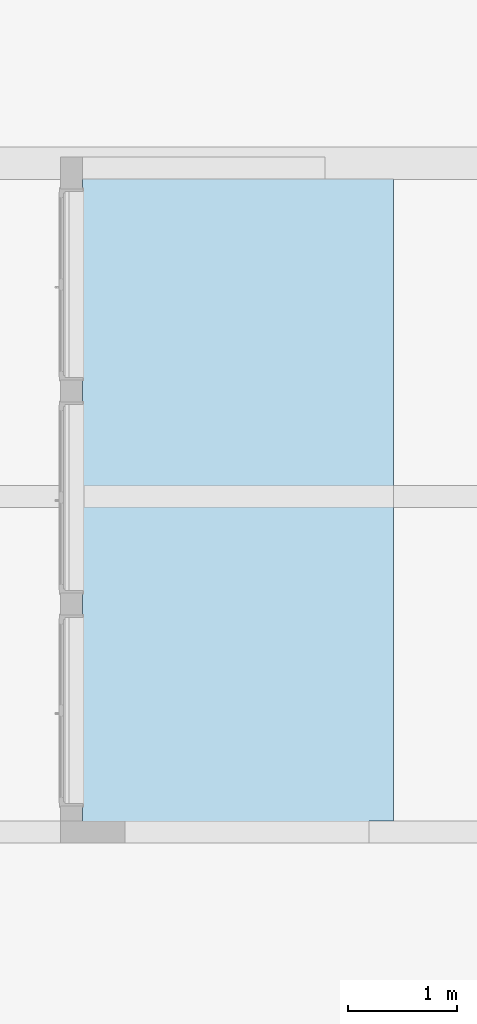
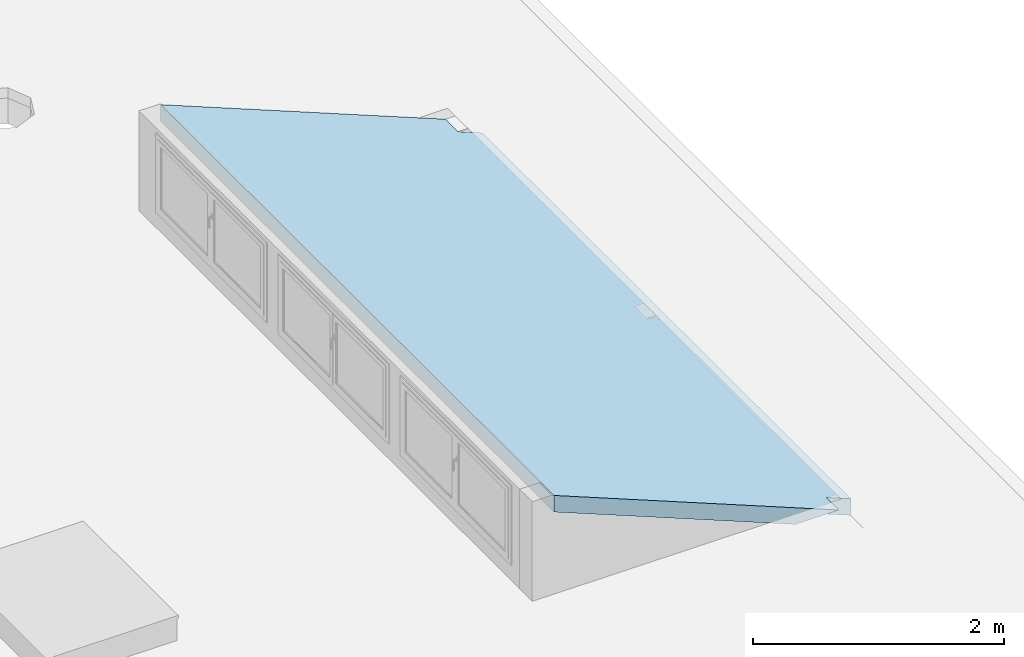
# One storey, part 2 of 4: 1 slab.
"""IFC2X3 building model written with IfcOpenShell, lengths in metres."""

import ifcopenshell
import ifcopenshell.guid

model = None  # the IFC model being written
_history = None  # IfcOwnerHistory: only IFC2X3 demands one
_inside = {}  # id of a spatial element -> (the spatial element, [elements in it])
_under = {}  # id of a project, library or spatial element -> (it, [spatial elements below it])
_declared = {}  # id of a project -> (the project, [libraries it declares])
_typed = {}  # id of a type object -> (the type object, [elements of that type])
_made_of = {}  # id of a material, layer set ... -> (it, [elements and type objects made of it])


def new_model(schema):
    """Start an empty IFC model of exactly this schema.

    Asked for "IFC4X3", IfcOpenShell would pick the latest addendum, in which some entities
    have other attributes; the version numbers below select the first issue.
    IFC2X3 requires an IfcOwnerHistory on every rooted entity: one is made here for all.
    """
    global model, _history
    if schema == "IFC4X3":
        model = ifcopenshell.file(schema_version=(4, 3, 0, 0))
    else:
        model = ifcopenshell.file(schema=schema)
    _inside.clear()
    _under.clear()
    _declared.clear()
    _typed.clear()
    _made_of.clear()
    _history = None
    if model.schema == "IFC2X3":
        org = make("IfcOrganization", Name="unknown")
        user = make(
            "IfcPersonAndOrganization",
            ThePerson=make("IfcPerson", FamilyName="unknown"),
            TheOrganization=org,
        )
        app = make(
            "IfcApplication",
            ApplicationDeveloper=org,
            Version="unknown",
            ApplicationFullName="unknown",
            ApplicationIdentifier="unknown",
        )
        _history = make(
            "IfcOwnerHistory",
            OwningUser=user,
            OwningApplication=app,
            ChangeAction="ADDED",
            CreationDate=0,
        )
    return model


def make(cls, **values):
    """One entity of the class cls with the attributes given. An attribute that is None is left unset."""
    return model.create_entity(
        cls, **{name: value for name, value in values.items() if value is not None}
    )


def entity(cls, *values):
    """Any entity or typed value of the class cls, its attributes in the order of the schema. None: left unset."""
    e = model.create_entity(cls)
    for i, value in enumerate(values):
        if value is not None:
            e[i] = value
    return e


def rooted(cls, **values):
    """An entity with a GlobalId (a new one), such as an element, a storey or a relation."""
    return make(cls, GlobalId=ifcopenshell.guid.new(), OwnerHistory=_history, **values)


def si_unit(unit_type, name, prefix=None):
    """IfcSIUnit, for example si_unit("LENGTHUNIT", "METRE", prefix="MILLI")."""
    return make("IfcSIUnit", UnitType=unit_type, Prefix=prefix, Name=name)


def converted_unit(unit_type, name, factor, base, dimensions=None, offset=None):
    """IfcConversionBasedUnit, such as the inch: factor (a typed value) times the base unit."""
    return make(
        "IfcConversionBasedUnit"
        if offset is None
        else "IfcConversionBasedUnitWithOffset",
        ConversionOffset=offset,
        Dimensions=None
        if dimensions is None
        else entity("IfcDimensionalExponents", *dimensions),
        UnitType=unit_type,
        Name=name,
        ConversionFactor=make(
            "IfcMeasureWithUnit", ValueComponent=factor, UnitComponent=base
        ),
    )


def derived_unit(unit_type, elements):
    """IfcDerivedUnit: a product of units, each with its exponent."""
    return make(
        "IfcDerivedUnit",
        Elements=[
            make("IfcDerivedUnitElement", Unit=unit, Exponent=power)
            for unit, power in elements
        ],
        UnitType=unit_type,
    )


def assignment(units):
    """IfcUnitAssignment: the units of a project."""
    return None if units is None else make("IfcUnitAssignment", Units=units)


def point(xyz):
    """IfcCartesianPoint."""
    return None if xyz is None else make("IfcCartesianPoint", Coordinates=xyz)


def direction(xyz):
    """IfcDirection."""
    return None if xyz is None else make("IfcDirection", DirectionRatios=xyz)


def frame(location, z_axis=None, x_axis=None):
    """IfcAxis2Placement3D, a coordinate frame: its origin and axes. An axis left out is left unset."""
    return make(
        "IfcAxis2Placement3D",
        Location=point(location),
        Axis=direction(z_axis),
        RefDirection=direction(x_axis),
    )


def origin():
    """The frame at (0, 0, 0) with its axes left unset."""
    return frame((0.0, 0.0, 0.0))


def place(relative_to, where):
    """IfcLocalPlacement: puts the frame where relative to a parent placement (None: the world)."""
    return make(
        "IfcLocalPlacement", PlacementRelTo=relative_to, RelativePlacement=where
    )


def context(
    kind, dimensions, precision=None, world=None, true_north=None, identifier=None
):
    """IfcGeometricRepresentationContext, for example the 3D "Model" context."""
    return make(
        "IfcGeometricRepresentationContext",
        ContextIdentifier=identifier,
        ContextType=kind,
        CoordinateSpaceDimension=dimensions,
        Precision=precision,
        WorldCoordinateSystem=world,
        TrueNorth=true_north,
    )


def subcontext(parent, identifier, kind, view, scale=None):
    """IfcGeometricRepresentationSubContext, for example "Body" below "Model"."""
    return make(
        "IfcGeometricRepresentationSubContext",
        ContextIdentifier=identifier,
        ContextType=kind,
        ParentContext=parent,
        TargetScale=scale,
        TargetView=view,
    )


def project(units=None, contexts=None):
    """IfcProject with its units and contexts."""
    return rooted(
        "IfcProject",
        Name="project",
        RepresentationContexts=contexts,
        UnitsInContext=assignment(units),
    )


def spatial(cls, under=None, at=None, **own):
    """A site, building, storey or space (cls), placed at a placement, below another one or the project."""
    s = rooted(cls, ObjectPlacement=at, **own)
    if under is not None:
        _under.setdefault(under.id(), (under, []))[1].append(s)
    return s


def faces_of(points, faces, orient=None, outer=None):
    """IfcFace entities. A face is a list of loops; a loop is a list of indices into points, from 0.

    orient and outer hold one flag for each loop. By default every Orientation is true, the
    first loop of a face is its IfcFaceOuterBound and the others are IfcFaceBound.
    """
    made = []
    for i, loops in enumerate(faces):
        bounds = []
        for j, loop in enumerate(loops):
            is_outer = j == 0 if outer is None else outer[i][j]
            bounds.append(
                make(
                    "IfcFaceOuterBound" if is_outer else "IfcFaceBound",
                    Bound=make("IfcPolyLoop", Polygon=[points[k] for k in loop]),
                    Orientation=True if orient is None else orient[i][j],
                )
            )
        made.append(make("IfcFace", Bounds=bounds))
    return made


def faceted_brep(points, faces, orient=None, outer=None, voids=None):
    """IfcFacetedBrep: a solid bounded by flat faces; with voids (closed shells), ...WithVoids."""
    shared = [point(p) for p in points]
    hull = make("IfcClosedShell", CfsFaces=faces_of(shared, faces, orient, outer))
    if voids is None:
        return make("IfcFacetedBrep", Outer=hull)
    return make(
        "IfcFacetedBrepWithVoids",
        Outer=hull,
        Voids=[
            make(cls, CfsFaces=faces_of(shared, fs, o, b)) for cls, fs, o, b in voids
        ],
    )


def shape(context_of_items, identifier, shape_type, items):
    """IfcShapeRepresentation: the items that make up one representation, for example the "Body"."""
    return make(
        "IfcShapeRepresentation",
        ContextOfItems=context_of_items,
        RepresentationIdentifier=identifier,
        RepresentationType=shape_type,
        Items=items,
    )


def made_of(thing, what):
    """Note that an element or type object is made of a material, layer set ...; save() writes the relation."""
    if what is not None:
        _made_of.setdefault(what.id(), (what, []))[1].append(thing)
    return thing


def type_object(cls, material=None, **own):
    """A type object (cls), such as IfcWallType, which elements share."""
    return made_of(rooted(cls, **own), material)


def element(
    cls,
    number,
    at=None,
    inside=None,
    cuts=None,
    type_object=None,
    material=None,
    context=None,
    identifier="Body",
    shape_type=None,
    held_by="IfcProductDefinitionShape",
    body=None,
    shapes=None,
    **own,
):
    """One element of the class cls, such as IfcWall. Its Tag is "e" and its number.

    at: its placement. inside: the storey or other place that contains it. cuts: it is an
    opening in that element (IfcRelVoidsElement). A single representation is given by context,
    identifier, shape_type and body (its items); several are given by shapes. held_by: the class
    of the entity that holds the representations. save() writes the other relations.
    """
    e = rooted(cls, Tag="e%d" % number, ObjectPlacement=at, **own)
    if body is not None:
        shapes = [shape(context, identifier, shape_type, body)]
    if shapes is not None:
        e.Representation = make(held_by, Representations=shapes)
    if inside is not None:
        _inside.setdefault(inside.id(), (inside, []))[1].append(e)
    if cuts is not None:
        rooted(
            "IfcRelVoidsElement", RelatingBuildingElement=cuts, RelatedOpeningElement=e
        )
    if type_object is not None:
        _typed.setdefault(type_object.id(), (type_object, []))[1].append(e)
    return made_of(e, material)


def aggregate(whole, parts):
    """IfcRelAggregates: a whole, such as a stair, and the parts it consists of."""
    return rooted("IfcRelAggregates", RelatingObject=whole, RelatedObjects=parts)


def save(model, path):
    """Write the relations noted so far, then the file.

    IfcRelAggregates (storeys below a building ...), IfcRelContainedInSpatialStructure (elements
    in a storey), IfcRelDefinesByType, IfcRelAssociatesMaterial and IfcRelDeclares: one each for
    every whole, place, type object, material and project.
    """
    for whole, parts in _under.values():
        aggregate(whole, parts)
    for where, things in _inside.values():
        rooted(
            "IfcRelContainedInSpatialStructure",
            RelatedElements=things,
            RelatingStructure=where,
        )
    for kind, things in _typed.values():
        rooted("IfcRelDefinesByType", RelatedObjects=things, RelatingType=kind)
    for what, things in _made_of.values():
        rooted("IfcRelAssociatesMaterial", RelatedObjects=things, RelatingMaterial=what)
    for by, libraries in _declared.values():
        rooted("IfcRelDeclares", RelatingContext=by, RelatedDefinitions=libraries)
    model.write(path)


model = new_model("IFC2X3")

# Units and contexts
model_context = context("Model", 3, precision=1e-05, world=origin(), true_north=direction((6.12303176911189e-17, 1.0)))
body_context = subcontext(model_context, "Body", "Model", "MODEL_VIEW")
ifc_project = project(units=[si_unit("LENGTHUNIT", "METRE"), si_unit("AREAUNIT", "SQUARE_METRE"), si_unit("VOLUMEUNIT", "CUBIC_METRE"), converted_unit("PLANEANGLEUNIT", "DEGREE", entity("IfcRatioMeasure", 0.0174532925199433), si_unit("PLANEANGLEUNIT", "RADIAN"), dimensions=[0, 0, 0, 0, 0, 0, 0]), si_unit("MASSUNIT", "GRAM", prefix="KILO"), derived_unit("MASSDENSITYUNIT", [(si_unit("MASSUNIT", "GRAM", prefix="KILO"), 1), (si_unit("LENGTHUNIT", "METRE"), -3)]), derived_unit("MOMENTOFINERTIAUNIT", [(si_unit("LENGTHUNIT", "METRE"), 4)]), si_unit("TIMEUNIT", "SECOND"), si_unit("FREQUENCYUNIT", "HERTZ"), si_unit("THERMODYNAMICTEMPERATUREUNIT", "DEGREE_CELSIUS"), derived_unit("THERMALTRANSMITTANCEUNIT", [(si_unit("MASSUNIT", "GRAM", prefix="KILO"), 1), (si_unit("THERMODYNAMICTEMPERATUREUNIT", "KELVIN"), -1), (si_unit("TIMEUNIT", "SECOND"), -3)]), derived_unit("VOLUMETRICFLOWRATEUNIT", [(si_unit("LENGTHUNIT", "METRE"), 3), (si_unit("TIMEUNIT", "SECOND"), -1)]), si_unit("ELECTRICCURRENTUNIT", "AMPERE"), si_unit("ELECTRICVOLTAGEUNIT", "VOLT"), si_unit("POWERUNIT", "WATT"), si_unit("FORCEUNIT", "NEWTON", prefix="KILO"), si_unit("ILLUMINANCEUNIT", "LUX"), si_unit("LUMINOUSFLUXUNIT", "LUMEN"), si_unit("LUMINOUSINTENSITYUNIT", "CANDELA"), derived_unit("USERDEFINED", [(si_unit("MASSUNIT", "GRAM", prefix="KILO"), -1), (si_unit("LENGTHUNIT", "METRE"), -2), (si_unit("TIMEUNIT", "SECOND"), 3), (si_unit("LUMINOUSFLUXUNIT", "LUMEN"), 1)]), derived_unit("LINEARVELOCITYUNIT", [(si_unit("LENGTHUNIT", "METRE"), 1), (si_unit("TIMEUNIT", "SECOND"), -1)]), si_unit("PRESSUREUNIT", "PASCAL"), derived_unit("USERDEFINED", [(si_unit("LENGTHUNIT", "METRE"), -2), (si_unit("MASSUNIT", "GRAM", prefix="KILO"), 1), (si_unit("TIMEUNIT", "SECOND"), -2)]), derived_unit("LINEARFORCEUNIT", [(si_unit("MASSUNIT", "GRAM", prefix="KILO"), 1), (si_unit("LENGTHUNIT", "METRE"), 1), (si_unit("TIMEUNIT", "SECOND"), -2), (si_unit("LENGTHUNIT", "METRE"), -1)]), derived_unit("PLANARFORCEUNIT", [(si_unit("MASSUNIT", "GRAM", prefix="KILO"), 1), (si_unit("LENGTHUNIT", "METRE"), 1), (si_unit("TIMEUNIT", "SECOND"), -2), (si_unit("LENGTHUNIT", "METRE"), -2)])], contexts=[model_context])

# Site, building, storey
site_placement = place(None, origin())
site = spatial("IfcSite", under=ifc_project, at=site_placement, Name="Default", CompositionType="ELEMENT")
building_placement = place(site_placement, origin())
building = spatial("IfcBuilding", under=site, at=building_placement, CompositionType="ELEMENT")
storey_placement = place(building_placement, frame((0.0, 0.0, 3.95330827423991)))
storey = spatial("IfcBuildingStorey", under=building, at=storey_placement, Name="Niveau 1 - 01", CompositionType="ELEMENT", Elevation=3.95330827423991)

# Slab
slab_type = type_object("IfcSlabType", Name="Sol:Béton sur place 150mm", PredefinedType="FLOOR")
slab_placement = place(storey_placement, origin())
element("IfcSlab", 1, at=slab_placement, inside=storey, type_object=slab_type, Name="Sol:Béton sur place 150mm", ObjectType="Sol:Béton sur place 150mm", PredefinedType="FLOOR", context=body_context, shape_type="Brep", body=[
    faceted_brep([(-29.7435797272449, -2.29282297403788, 0.898286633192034), (-29.7435797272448, 3.78217702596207, 0.898286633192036), (-29.7435797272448, 3.98217702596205, 0.898286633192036), (-27.5202422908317, 3.98217702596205, 0.0), (-27.5202422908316, 3.78217702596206, 0.0), (-26.9014705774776, 3.78217702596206, -0.249999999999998), (-26.9014705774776, 3.98217702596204, -0.25), (-26.8935797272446, 3.98217702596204, -0.253188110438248), (-26.8935797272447, -2.29282297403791, -0.253188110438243), (-26.9014705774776, -2.29282297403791, -0.249999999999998), (-26.9014705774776, -2.09282297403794, -0.249999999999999), (-27.5202422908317, -2.09282297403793, 0.0), (-27.5202422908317, -2.29282297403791, 0.0), (-29.7435797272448, 3.98217702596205, 1.06006684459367), (-29.7435797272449, -2.29282297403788, 1.06006684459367), (-27.1198222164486, -2.29282297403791, 0.0), (-27.1198222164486, -2.09282297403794, 0.0), (-26.8935797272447, -2.09282297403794, -0.0914078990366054), (-26.8935797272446, 3.78217702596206, -0.0914078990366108), (-27.1198222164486, 3.78217702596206, 0.0), (-27.1198222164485, 3.98217702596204, 0.0), (-26.8935797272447, -2.29282297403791, -0.25), (-26.8935797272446, 3.98217702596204, -0.25), (-26.8935797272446, 3.78217702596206, -0.25), (-26.8935797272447, -2.09282297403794, -0.25)], [[[0, 1, 2, 3, 4, 5, 6, 7, 8, 9, 10, 11, 12]], [[13, 14, 15, 16, 17, 18, 19, 20]], [[9, 8, 21]], [[2, 1, 0, 14, 13]], [[7, 6, 22]], [[8, 7, 22, 23, 18, 17, 24, 21]], [[24, 10, 9, 21]], [[11, 16, 15, 12]], [[23, 5, 4, 19, 18]], [[10, 24, 17, 16, 11]], [[19, 4, 3, 20]], [[5, 23, 22, 6]], [[2, 13, 20, 3]], [[14, 0, 12, 15]]]),
])

save(model, "model.ifc")
